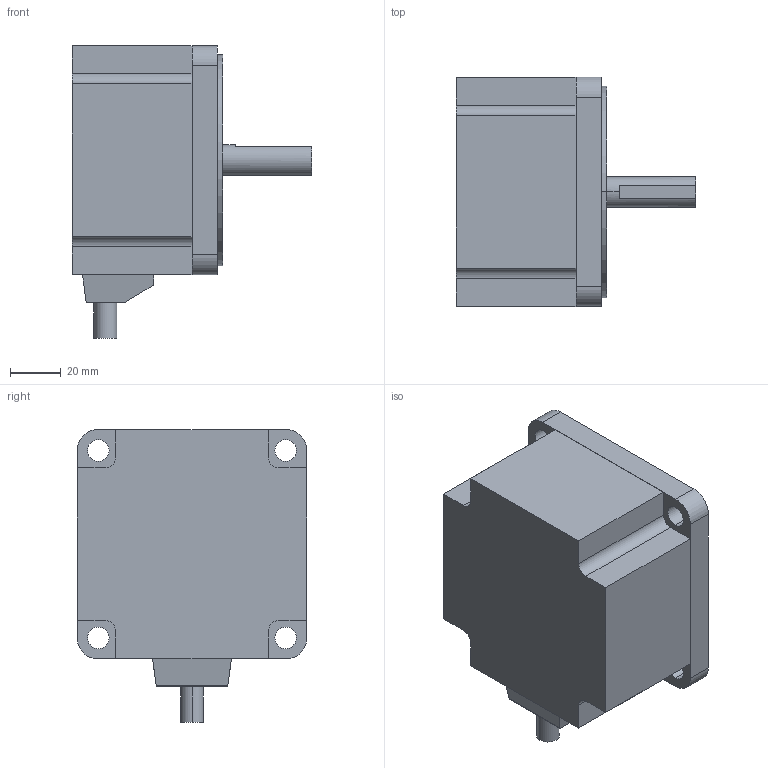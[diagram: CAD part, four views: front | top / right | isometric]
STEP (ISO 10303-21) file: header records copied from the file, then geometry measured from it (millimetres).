
FILE_DESCRIPTION(('starvars output'),'2;1');
FILE_NAME('BLH5100KC-A.stp','15:07:29 2015/05/11',( 'Thomas Industrial Network Germany GmbH'),( 'Thomas Industrial Network Germany GmbH'),'unknown preprocess','ACIS' ,'unknown authorization');
FILE_SCHEMA(('AUTOMOTIVE_DESIGN_CC2 {UNKNOWN IMPLEMENTATION LEVEL}'));
Length unit declared in the file: millimetre
Products named in the file (1): PRODUCT_ID_419
Bounding box: 94 x 90 x 115 mm (x, y, z)
Volume: 440408.3 mm3; surface area: 41635.9 mm2
Topology: 2 solids, 2 shells, 56 faces, 144 edges, 96 vertices
Faces by surface type: plane 31, cylinder 25
Entity records: 2147 total; most frequent: ORIENTED_EDGE 288, CARTESIAN_POINT 274, DIRECTION 264, EDGE_CURVE 144, VERTEX_POINT 96, VECTOR 92, LINE 92, AXIS2_PLACEMENT_3D 86
